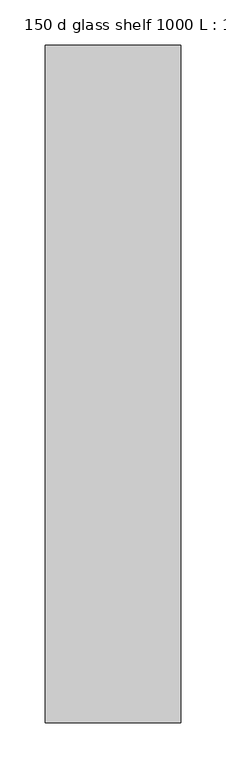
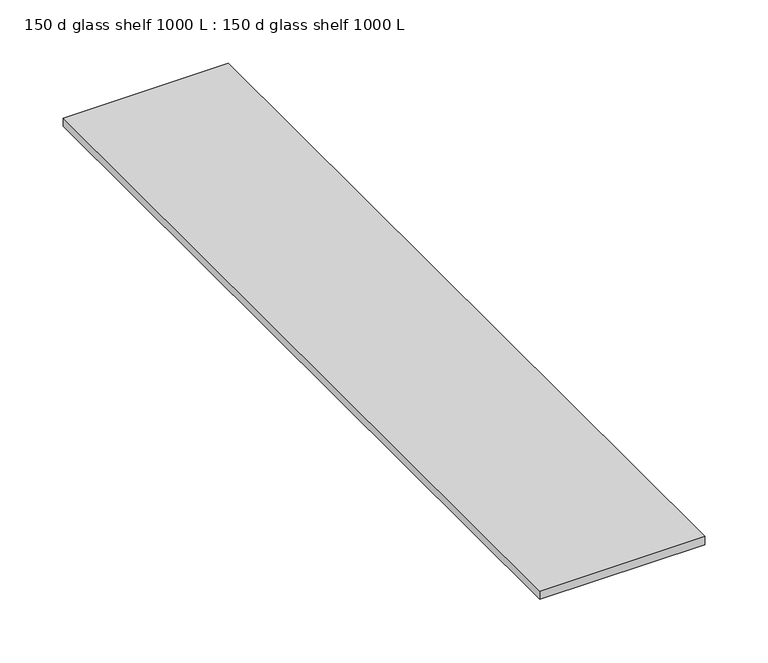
"""IFC4 building model written with IfcOpenShell, lengths in millimetres: flow terminal geometry, 150 d glass shelf 1000 L : 150 d glass shelf 1000 L."""

from ifc_helpers import new_model, si_unit, frame, origin, place, context, project, spatial, polyline, outline, extrude, source, transform, mapped, element, save


def flow_terminal_150_d_glass_shelf_1000_l_150_d_glass_shelf_b8576580(model_context):
    return source(origin(), model_context, "Body", "SweptSolid", [
        extrude(outline(polyline([(7734.9065765, 8120.7563244), (7584.9065765, 8120.7563244), (7584.9065765, 8870.7563244), (7734.9065765, 8870.7563244), (7734.9065765, 8120.7563244)])), frame((0.0, 0.0, 1200.0), z_axis=(0.0, 0.0, 1.0), x_axis=(1.0, 0.0, 0.0)), (0.0, 0.0, 1.0), 8.0),
    ])


if __name__ == "__main__":
    model = new_model("IFC4")
    model_context = context("Model", 3, world=origin())
    ifc_project = project(units=[si_unit("LENGTHUNIT", "METRE", prefix="MILLI")], contexts=[model_context])
    site = spatial("IfcSite", under=ifc_project)
    building = spatial("IfcBuilding", under=site)
    placement = place(None, origin())
    flow_terminal_150_d_glass_shelf_1000_l_150_d_glass_shelf_shape = flow_terminal_150_d_glass_shelf_1000_l_150_d_glass_shelf_b8576580(model_context)
    element("IfcFlowTerminal", 1, ObjectType="150 d glass shelf 1000 L : 150 d glass shelf 1000 L", at=placement, inside=building, context=model_context, shape_type="MappedRepresentation", body=[
        mapped(flow_terminal_150_d_glass_shelf_1000_l_150_d_glass_shelf_shape, transform((0.0, 0.0, 0.0), x_axis=(1.0, 0.0, 0.0), y_axis=(0.0, 1.0, 0.0), z_axis=(0.0, 0.0, 1.0))),
    ])
    save(model, "model.ifc")
